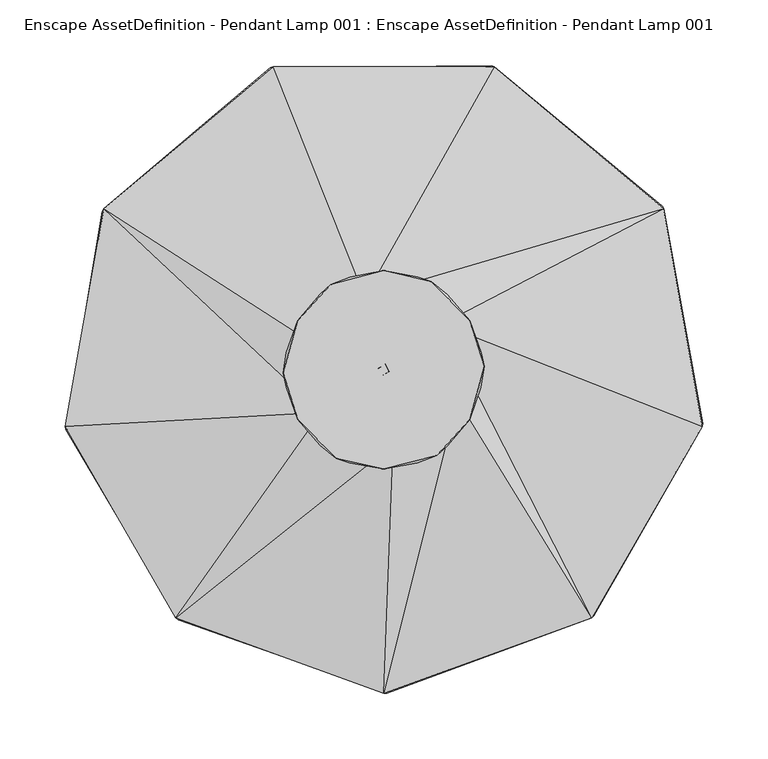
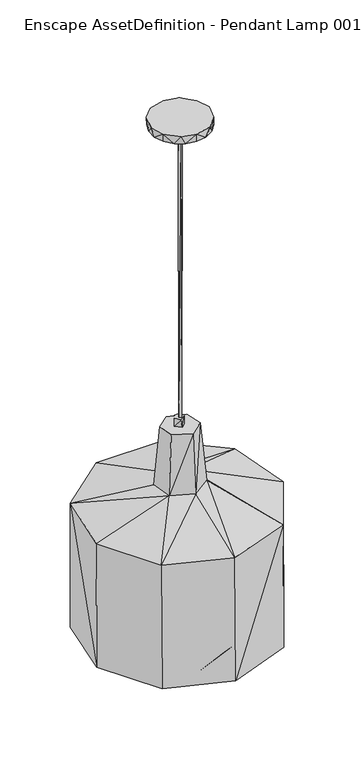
"""IFC4 building model written with IfcOpenShell, lengths in millimetres: geographic element geometry, Enscape AssetDefinition - Pendant Lamp 001 : Enscape AssetDefinition - Pendant Lamp 001."""

from ifc_helpers import new_model, si_unit, origin, place, context, project, spatial, triangles, source, transform, mapped, element, save


def enscape_assetdefinition_pendant_lamp_001_enscape_e6839370(model_context):
    return source(origin(), model_context, "Body", "Tessellation", [
        triangles([(4.2702253, 1.3089387, -825.5092775), (-1.3388002, -4.4434234, -20.8285479), (1.3388002, -4.4424282, -825.5092775), (-1.3388002, 4.4434234, -825.5092775), (-4.2702253, 1.3089387, -20.8285479), (4.2702253, -1.3089387, -20.8285479), (-4.2702253, -1.3089387, -825.5092775), (1.3388002, 4.4434234, -20.8285479), (-215.3676682, 121.5501298, -1401.7618217), (-86.848814, 231.5437883, -1401.7696701), (84.5773411, 232.3928463, -1062.3504896), (82.2969116, 233.2011, -1401.7687981), (19.5703739, 102.5063067, -1460.0847153), (23.0542432, 115.6136189, -1442.7110664), (-39.9231218, 109.6930319, -1442.3029518), (-35.425949, 97.3362553, -1459.7273243), (79.7556696, 65.9366639, -1460.0847153), (117.8592213, -2.6238497, -1442.7110664), (102.3599857, -0.746543, -1460.0835526), (91.9740826, 73.7375413, -1442.7122292), (88.5917582, -77.767873, -1442.7110664), (76.8023433, -66.3676696, -1460.0847153), (160.815293, -187.8700188, -1401.7837681), (-3.4271297, -99.7610346, -1460.0847153), (-2.5173427, 12.1497376, -1460.0448921), (2.4247714, -247.2888484, -1401.7766464), (-2.9055452, -116.1202832, -1442.7110664), (-80.8804556, -62.8469679, -1460.0847153), (-103.484799, 3.8372309, -1460.0835526), (-91.9740826, -73.7365466, -1442.7122292), (-117.8592213, 2.6248452, -1442.7110664), (-77.9261483, 69.4573611, -1460.0847153), (-158.9688578, -189.4457402, -1062.3504896), (-157.0955164, -190.9905587, -1401.7837681), (-243.1072359, -45.3310812, -1401.7826054), (-88.5917582, 77.7688723, -1442.7110664), (-243.5461807, -42.9471197, -1062.3504896), (-47.7100648, -32.4417721, -1005.3495358), (0.0, -247.3087781, -1062.3504896), (7.4614478, -56.6516611, -1005.3156715), (42.4723212, -16.575243, -846.3398375), (56.1977643, -21.9025716, -1005.3156715), (158.9688578, -189.4457402, -1062.3504896), (243.5461807, -42.9471197, -1062.3504896), (44.2441199, 35.4150008, -1005.3166162), (243.9483182, -40.5522122, -1401.7837681), (214.1841466, 123.654389, -1062.3504896), (2.2057856, 13.3233033, -846.3556795), (33.3445899, 27.1920811, -846.3398375), (10.2415737, -1.929067, -846.3478312), (-14.4232089, 56.2087103, -1005.3504805), (-11.452963, 43.0695549, -846.3667253), (-43.3293547, 16.8668927, -846.3398375), (-14.5247391, 0.782377, -846.3478312), (-8.1213918, 12.7141245, -846.3478312), (-8.1213918, 12.7141245, -824.5666752), (-14.5247391, 0.782377, -824.5666752), (-36.8702627, -24.622977, -846.365708), (2.2057856, 13.3233033, -824.5745962), (10.2415737, -1.929067, -824.5666752), (-1.8603851, 0.6330685, -824.569582), (-3.8213042, -11.3374984, -824.5736515), (7.6575398, -44.818458, -846.3398375), (-0.6380453, -11.4808342, -846.3556795), (-214.1841466, 123.654389, -1062.3504896), (-56.1688962, 21.8926204, -1005.3156715), (-84.5773411, 232.3928463, -1062.3504896), (212.9488659, 125.7387367, -1401.7618217), (-65.7644633, 37.9622064, 0.0), (-48.4416789, 58.0511759, -20.3955529), (74.2103458, -13.4208514, -20.734983), (-65.3822283, 37.9751484, -20.3975445), (-40.5770972, 65.3593372, 0.0), (-74.4243544, 13.3332568, -20.3975445), (-76.8909371, -2.4616009, 0.0), (-74.4950305, -12.9311193, -20.3965475), (-48.7502493, -57.7933701, -20.3955529), (-65.5852909, -37.6237732, -20.3975445), (-65.7644633, -37.9622064, 0.0), (-36.3138399, -67.8209375, 0.0), (-26.0533516, -70.9822998, -20.3995361), (76.8909371, 2.4616009, 0.0), (-0.2010689, -75.6138575, -20.3995361), (0.0, -75.9363533, 0.0), (65.7644633, -37.9622064, 0.0), (25.6701264, -71.1206589, -20.3995361), (40.5770972, -65.3593372, 0.0), (48.4416789, -58.0511759, -20.3955529), (65.3822283, -37.9751484, -20.3975445), (65.5852909, 37.6237732, -20.3975445), (26.0533516, 70.9822998, -20.3995361), (0.2010689, 75.6138575, -20.3995361), (74.4950305, 12.9311193, -20.3965475), (36.3138399, 67.8209375, 0.0), (65.7644633, 37.9622064, 0.0), (48.7502493, 57.7933701, -20.3955529), (-25.6701264, 71.1206589, -20.3995361), (0.0, 75.9363533, 0.0)], [[94, 98, 73], [98, 97, 73], [98, 92, 97], [91, 98, 94], [91, 92, 98], [94, 96, 91], [95, 96, 94], [82, 94, 73], [82, 95, 94], [93, 95, 82], [95, 90, 96], [93, 90, 95], [82, 71, 93], [97, 92, 71], [91, 71, 92], [91, 96, 71], [90, 71, 96], [90, 93, 71], [85, 71, 82], [85, 89, 71], [88, 89, 85], [88, 71, 89], [83, 71, 88], [83, 88, 86], [87, 85, 82], [87, 86, 88], [88, 85, 87], [84, 86, 87], [84, 83, 86], [81, 83, 84], [81, 71, 83], [80, 82, 73], [80, 87, 82], [80, 84, 87], [81, 84, 80], [80, 77, 81], [81, 77, 71], [79, 77, 80], [79, 78, 77], [76, 78, 79], [76, 77, 78], [76, 71, 77], [75, 80, 73], [75, 79, 80], [76, 79, 75], [74, 71, 76], [74, 76, 75], [69, 75, 73], [69, 74, 75], [69, 72, 74], [97, 71, 70], [73, 97, 70], [70, 74, 72], [70, 71, 74], [70, 69, 73], [70, 72, 69], [20, 68, 46], [68, 11, 47], [46, 68, 47], [11, 67, 51], [47, 11, 51], [67, 66, 51], [67, 65, 66], [51, 66, 53], [66, 58, 53], [65, 38, 66], [66, 38, 58], [63, 41, 50], [38, 63, 58], [64, 50, 60], [58, 63, 64], [63, 50, 64], [64, 60, 62], [62, 60, 61], [60, 59, 61], [50, 59, 60], [59, 56, 61], [57, 62, 61], [56, 57, 61], [54, 62, 57], [54, 64, 62], [58, 64, 54], [53, 58, 54], [55, 57, 56], [55, 54, 57], [50, 48, 59], [48, 56, 59], [48, 55, 56], [52, 54, 55], [52, 53, 54], [52, 55, 48], [51, 53, 52], [49, 48, 50], [41, 49, 50], [49, 52, 48], [47, 51, 45], [45, 52, 49], [45, 51, 52], [44, 47, 45], [46, 47, 44], [23, 46, 44], [43, 44, 45], [23, 44, 43], [43, 45, 42], [42, 49, 41], [42, 45, 49], [38, 40, 63], [40, 41, 63], [40, 42, 41], [39, 42, 40], [39, 43, 42], [26, 43, 39], [26, 23, 43], [33, 40, 38], [33, 39, 40], [26, 39, 33], [37, 33, 38], [65, 37, 38], [35, 9, 36], [35, 65, 9], [35, 37, 65], [34, 37, 35], [34, 33, 37], [26, 33, 34], [35, 36, 31], [34, 35, 31], [36, 16, 32], [31, 36, 32], [32, 16, 25], [29, 32, 25], [31, 32, 29], [30, 31, 29], [34, 31, 30], [26, 34, 30], [28, 29, 25], [30, 29, 28], [27, 30, 28], [26, 30, 27], [24, 28, 25], [27, 28, 24], [21, 27, 24], [46, 23, 21], [26, 21, 23], [26, 27, 21], [22, 24, 25], [21, 24, 22], [18, 21, 22], [46, 21, 18], [20, 46, 18], [19, 22, 25], [18, 22, 19], [20, 18, 19], [17, 19, 25], [20, 19, 17], [16, 13, 25], [13, 17, 25], [15, 13, 16], [36, 15, 16], [9, 15, 36], [15, 14, 13], [14, 17, 13], [14, 20, 17], [12, 20, 14], [12, 68, 20], [68, 12, 11], [10, 14, 15], [10, 12, 14], [9, 10, 15], [10, 65, 67], [10, 9, 65], [10, 11, 12], [10, 67, 11], [5, 8, 4], [5, 4, 7], [7, 2, 5], [6, 5, 2], [6, 8, 5], [8, 1, 4], [8, 6, 1], [3, 4, 1], [3, 7, 4], [7, 3, 2], [3, 6, 2], [3, 1, 6]]),
    ])


if __name__ == "__main__":
    model = new_model("IFC4")
    model_context = context("Model", 3, world=origin())
    ifc_project = project(units=[si_unit("LENGTHUNIT", "METRE", prefix="MILLI")], contexts=[model_context])
    site = spatial("IfcSite", under=ifc_project)
    building = spatial("IfcBuilding", under=site)
    placement = place(None, origin())
    enscape_assetdefinition_pendant_lamp_001_enscape_shape = enscape_assetdefinition_pendant_lamp_001_enscape_e6839370(model_context)
    element("IfcGeographicElement", 1, ObjectType="Enscape AssetDefinition - Pendant Lamp 001 : Enscape AssetDefinition - Pendant Lamp 001", at=placement, inside=building, context=model_context, shape_type="MappedRepresentation", body=[
        mapped(enscape_assetdefinition_pendant_lamp_001_enscape_shape, transform((0.0, 0.0, 0.0), x_axis=(1.0, 0.0, 0.0), y_axis=(0.0, 1.0, 0.0), z_axis=(0.0, 0.0, 1.0))),
    ])
    save(model, "model.ifc")
